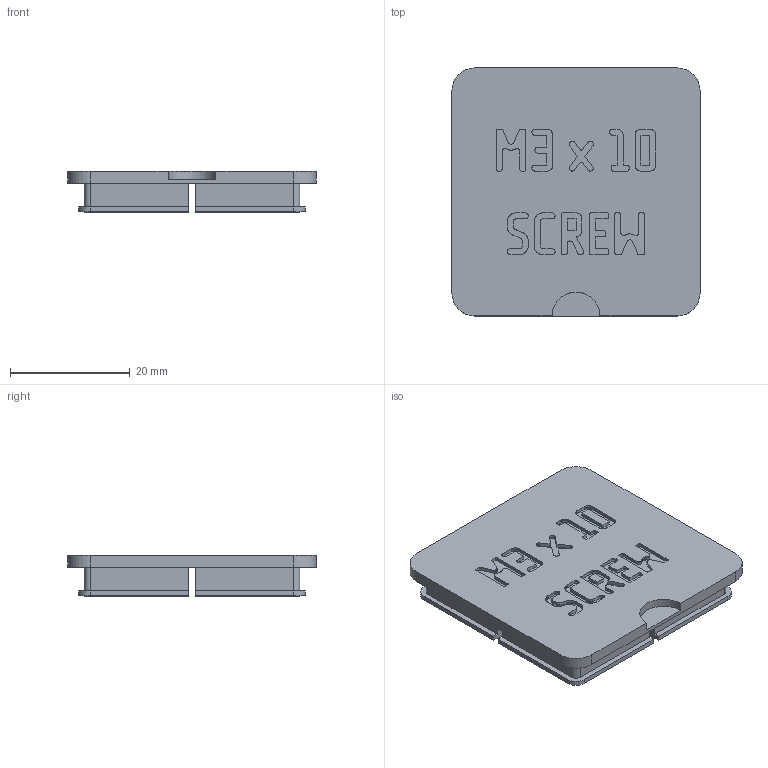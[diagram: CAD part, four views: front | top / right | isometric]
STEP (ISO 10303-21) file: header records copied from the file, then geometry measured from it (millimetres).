
FILE_DESCRIPTION(('Open CASCADE Model'),'2;1');
FILE_NAME('Open CASCADE Shape Model','2026-11-03T17:09:53',('Author'),( 'Open CASCADE'),'Open CASCADE STEP processor 8.0','build123d', 'Unknown');
FILE_SCHEMA(('AUTOMOTIVE_DESIGN { 1 0 10303 214 1 1 1 1 }'));
Products named in the file (1): COMPOUND
Bounding box: 41.5 x 41.5 x 6.9 mm (x, y, z)
Volume: 4183.1 mm3; surface area: 5545.9 mm2
Topology: 1 solids, 1 shells, 1167 faces, 3456 edges, 2304 vertices
Faces by surface type: plane 1146, cylinder 21
Entity records: 83082 total; most frequent: CARTESIAN_POINT 14196, DIRECTION 12550, LINE 10120, VECTOR 10120, ORIENTED_EDGE 6912, PCURVE 6912, DEFINITIONAL_REPRESENTATION 6912, EDGE_CURVE 3456
